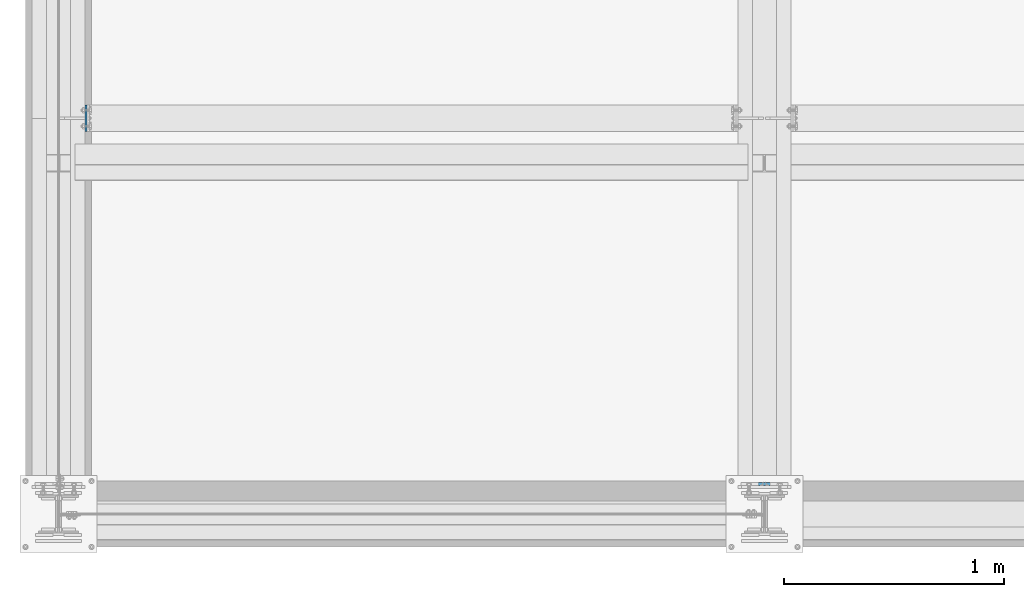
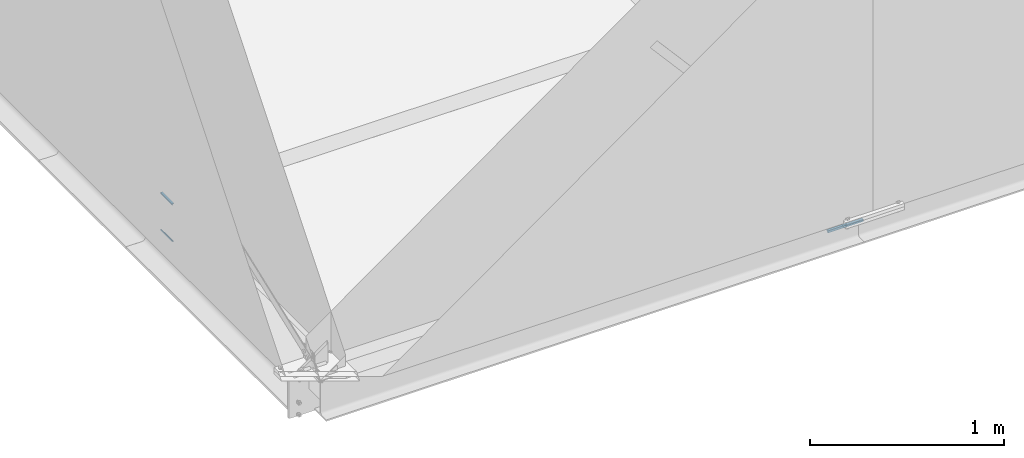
# One storey, part 9 of 66: 3 fasteners.
"""IFC4 building model written with IfcOpenShell, lengths in metres."""

from ifc_helpers import new_model, si_unit, frame, origin_with_axes, place, context, project, spatial, polyline, outline, extrude, type_object, element, save


model = new_model("IFC4")

# Units and contexts
model_context = context("Model", 3, precision=1e-05, world=origin_with_axes())
ifc_project = project(units=[si_unit("LENGTHUNIT", "METRE"), si_unit("AREAUNIT", "SQUARE_METRE"), si_unit("VOLUMEUNIT", "CUBIC_METRE"), si_unit("MASSUNIT", "GRAM", prefix="KILO"), si_unit("TIMEUNIT", "SECOND"), si_unit("PLANEANGLEUNIT", "RADIAN"), si_unit("SOLIDANGLEUNIT", "STERADIAN"), si_unit("THERMODYNAMICTEMPERATUREUNIT", "DEGREE_CELSIUS")], contexts=[model_context])

# Site, building, storey
placement_1 = place(None, origin_with_axes())
site = spatial("IfcSite", under=ifc_project, at=placement_1, Name="Italia", CompositionType="ELEMENT")
building = spatial("IfcBuilding", under=site, at=placement_1, Name="Uffici", CompositionType="ELEMENT")
storey_placement = place(None, frame((0.0, 0.0, 3.299999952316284), z_axis=(0.0, 0.0, 1.0), x_axis=(1.0, 0.0, 0.0)))
storey = spatial("IfcBuildingStorey", under=building, at=storey_placement, Name="Storey 1", CompositionType="ELEMENT", Elevation=3.299999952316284)

# Fasteners
fastener_type_1 = type_object("IfcFastenerType", Name="Collegamento -001_-002", PredefinedType="WELD")
placement_2 = place(placement_1, origin_with_axes())
fastener_1_placement = place(placement_2, origin_with_axes())
element("IfcFastener", 1, at=fastener_1_placement, inside=storey, type_object=fastener_type_1, Name="Collegamento -001_-002", context=model_context, shape_type="SweptSolid", body=[
    extrude(outline(polyline([(0.0, 0.0), (0.0101734, -0.00986814), (0.0, -0.00986814), (0.0, 0.0)])), frame((0.11995, 1.85672, 3.06982), z_axis=(0.0, -1.0, 0.0), x_axis=(1.0, 0.0, 0.0)), (0.0, 0.0, 1.0), 0.1201),
])
fastener_type_2 = type_object("IfcFastenerType", Name="Collegamento -001_-002", PredefinedType="WELD")
fastener_2_placement = place(placement_2, origin_with_axes())
element("IfcFastener", 2, at=fastener_2_placement, inside=storey, type_object=fastener_type_2, Name="Collegamento -001_-002", context=model_context, shape_type="SweptSolid", body=[
    extrude(outline(polyline([(0.0, 0.0), (-0.0101734, 0.00986814), (0.0, 0.00986814), (0.0, 0.0)])), frame((0.11995, 1.73662, 3.29018), z_axis=(0.0, 1.0, 0.0), x_axis=(-1.0, 0.0, 0.0)), (0.0, 0.0, 1.0), 0.1201),
])
fastener_type_3 = type_object("IfcFastenerType", Name="Collegamenti 0101_-001 0102_-002 0103_-003 0104_-004", PredefinedType="WELD")
fastener_3_placement = place(placement_2, origin_with_axes())
element("IfcFastener", 3, at=fastener_3_placement, inside=storey, type_object=fastener_type_3, Name="Collegamenti 0101_-001 0102_-002 0103_-003 0104_-004", context=model_context, shape_type="SweptSolid", body=[
    extrude(outline(polyline([(0.0, 0.0), (-0.0141733, 0.0137482), (0.0, 0.0137482), (0.0, 0.0)])), frame((3.31105, 0.12995, 3.0463), z_axis=(-1.0, 0.0, 0.0), x_axis=(0.0, -1.0, 0.0)), (0.0, 0.0, 1.0), 0.2121),
])

save(model, "model.ifc")
